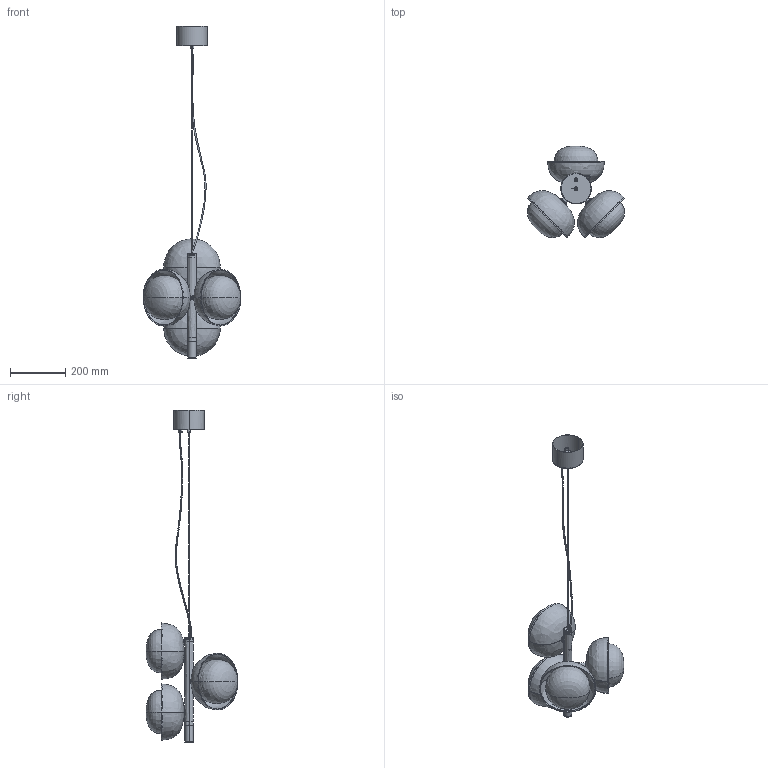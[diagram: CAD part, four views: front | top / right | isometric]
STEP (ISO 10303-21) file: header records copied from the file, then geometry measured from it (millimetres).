
FILE_DESCRIPTION(/* description */ (''),/* implementation_level */ '2;1');
FILE_NAME(/* name */ '59MOIC~M',/* time_stamp */ '2022-07-28T11:29:05+02:00',/* author */ (''),/* organization */ (''),/* preprocessor_version */ 'ST-DEVELOPER v15',/* originating_system */ '',/* authorisation */ '');
FILE_SCHEMA (('AUTOMOTIVE_DESIGN'));
Length unit declared in the file: millimetre
Products named in the file (1): Document
Bounding box: 352.89 x 331.67 x 1198.01 mm (x, y, z)
Volume: 957051.1 mm3; surface area: 2031679.4 mm2
Topology: 36 solids, 36 shells, 303 faces, 675 edges, 391 vertices
Faces by surface type: bspline 303
Entity records: 45089 total; most frequent: CARTESIAN_POINT 37127, ORIENTED_EDGE 1292, PCURVE 1292, DEFINITIONAL_REPRESENTATION 1292, B_SPLINE_CURVE_WITH_KNOTS 1154, SURFACE_CURVE 646, EDGE_CURVE 646, VERTEX_POINT 389
